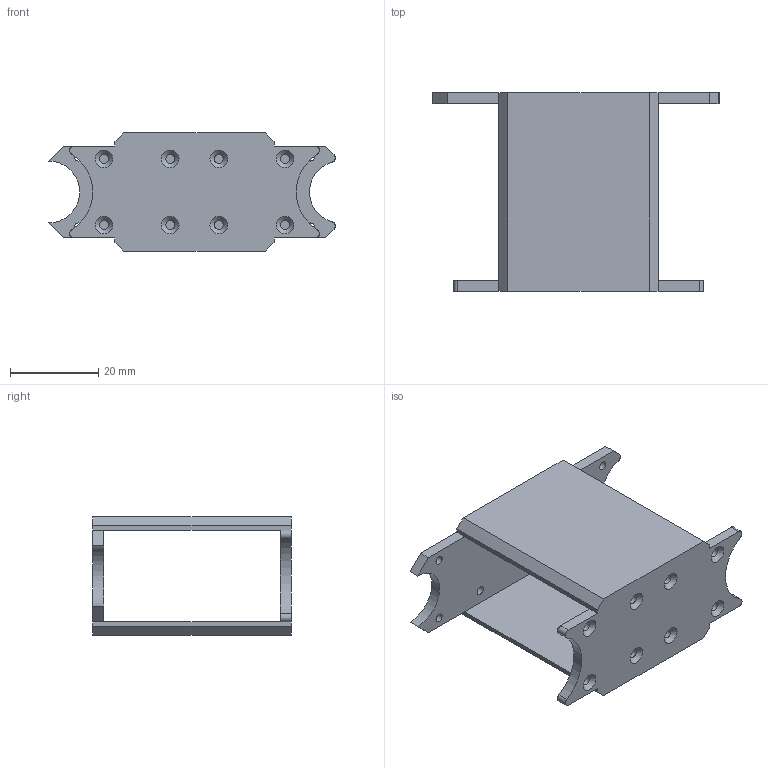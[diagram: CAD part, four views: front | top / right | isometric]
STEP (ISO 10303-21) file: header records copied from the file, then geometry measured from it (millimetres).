
FILE_DESCRIPTION(/* description */ (''),/* implementation_level */ '2;1');
FILE_NAME(/* name */ 'E:/云同步/我的坚果云/项目/SERVO DRIVER WITH ESP32/模型/B v5.step',/* time_stamp */ '2022-01-21T19:21:17+08:00',/* author */ (''),/* organization */ (''),/* preprocessor_version */ 'ST-DEVELOPER v18.1',/* originating_system */ 'Autodesk Translation Framework v10.10.0.1391',/* authorisation */ '');
FILE_SCHEMA (('AUTOMOTIVE_DESIGN { 1 0 10303 214 3 1 1 }'));
Length unit declared in the file: millimetre
Products named in the file (1): B
Bounding box: 64.87 x 45 x 26.8 mm (x, y, z)
Volume: 14736.6 mm3; surface area: 11952.1 mm2
Topology: 1 solids, 1 shells, 74 faces, 198 edges, 124 vertices
Faces by surface type: plane 28, cylinder 28, cone 18
Full cylindrical faces by diameter (mm): 1.98 x6, 2 x12
Entity records: 2404 total; most frequent: DIRECTION 424, CARTESIAN_POINT 397, ORIENTED_EDGE 396, EDGE_CURVE 198, AXIS2_PLACEMENT_3D 151, VERTEX_POINT 124, LINE 122, VECTOR 122
